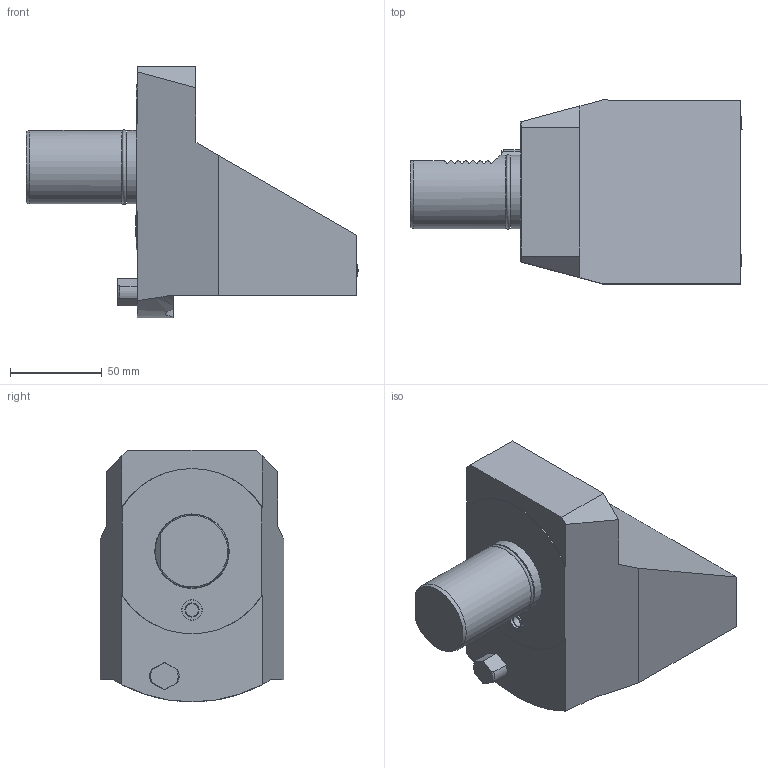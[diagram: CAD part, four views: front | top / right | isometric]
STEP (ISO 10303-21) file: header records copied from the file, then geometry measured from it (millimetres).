
FILE_DESCRIPTION(/* description */ (''),/* implementation_level */ '2;1');
FILE_NAME(/* name */ '193522',/* time_stamp */ '2020-11-16T14:29:41+01:00',/* author */ (''),/* organization */ (''),/* preprocessor_version */ 'ST-DEVELOPER v16.5',/* originating_system */ 'HiCAD 2017 2201.0 Build 268',/* authorisation */ '');
FILE_SCHEMA (('AUTOMOTIVE_DESIGN { 1 0 10303 214 1 1 1 1 }'));
Length unit declared in the file: millimetre
Products named in the file (30): Root; Leeres Teil; 113942_O-Ring 36x2_330; 173501_Kantsealring 7.65x1.68_331; 197277_SPRITZDUESE TIKT M12X1-M6_350; DIN 13-M12x1; Gruppe ; DIN 912      (Innensechskant)_Zylinderschraube 6x25_400*; GEWINDE; KUGEL_0; DIN 13-M6; ROTATIONSTEIL_0_110; 00021672_110*; 130249_Schraube M12 SW14_130*; ʒُ; 2"; ZYLINDER_1; DIN 76-M12x1
Assembly tree (29 placements, depth 6):
  Root
    Leeres Teil
      Leeres Teil
        113942_O-Ring 36x2_330
        173501_Kantsealring 7.65x1.68_331
        Leeres Teil
          197277_SPRITZDUESE TIKT M12X1-M6_350
            DIN 13-M12x1
          197277_SPRITZDUESE TIKT M12X1-M6_350
            DIN 13-M12x1
        Gruppe 
          DIN 912      (Innensechskant)_Zylinderschraube 6x25_400*
            GEWINDE
          DIN 912      (Innensechskant)_Zylinderschraube 6x25_400*
            GEWINDE
        KUGEL_0
          DIN 13-M6
        KUGEL_0
          DIN 13-M6
      ROTATIONSTEIL_0_110
      00021672_110*
      Leeres Teil
        130249_Schraube M12 SW14_130*
          (unnamed)
        130249_Schraube M12 SW14_130*
          ʒُ
        130249_Schraube M12 SW14_130*
          2"
      ZYLINDER_1
        DIN 76-M12x1
Bounding box: 180.66 x 100 x 137 mm (x, y, z)
Volume: 836619.7 mm3; surface area: 91448.1 mm2
Topology: 20 solids, 20 shells, 285 faces, 712 edges, 469 vertices
Faces by surface type: plane 192, cylinder 52, cone 32, torus 5, sphere 4
Full cylindrical faces by diameter (mm): 5 x2, 6 x4, 6.6 x2, 6.8 x1, 7.65 x1, 9.6 x3, 9.92 x2, 10 x2, 11 x10, 11.01 x1, 11.1 x1, 12 x6, 36.5 x1, 40 x2
Entity records: 17620 total; most frequent: CARTESIAN_POINT 4154, DIRECTION 1594, PRESENTATION_STYLE_ASSIGNMENT 1261, COLOUR_RGB 1246, DRAUGHTING_PRE_DEFINED_CURVE_FONT 1242, CURVE_STYLE 1242, OVER_RIDING_STYLED_ITEM 1242, ORIENTED_EDGE 1242
